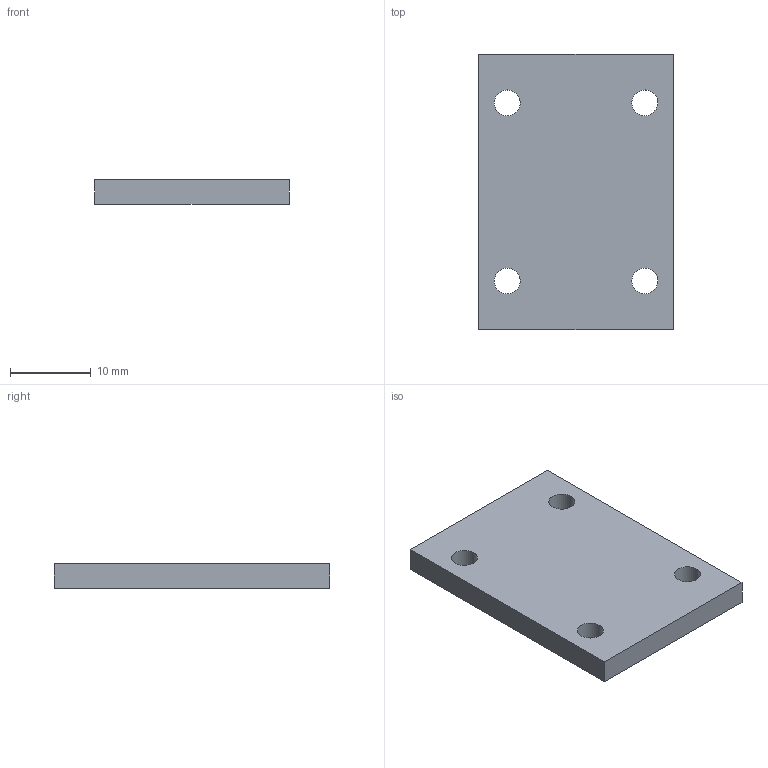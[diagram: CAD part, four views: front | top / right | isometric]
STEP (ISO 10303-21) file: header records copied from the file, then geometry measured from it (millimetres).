
FILE_DESCRIPTION(('STEP'), '1');
FILE_NAME('left-rail-cap', '2026-11-05T01:20:27', (''), (''), 'Express 3.1.3.0', 'Express Tool', 'Unknown');
FILE_SCHEMA(('AUTOMOTIVE_DESIGN'));
Length unit declared in the file: millimetre
Products named in the file (1): left-rail-cap
Bounding box: 24 x 34 x 3 mm (x, y, z)
Volume: 2351.2 mm3; surface area: 2036.5 mm2
Topology: 1 solids, 1 shells, 10 faces, 24 edges, 16 vertices
Faces by surface type: bspline 10
Entity records: 423 total; most frequent: CARTESIAN_POINT 222, ORIENTED_EDGE 48, EDGE_CURVE 24, EDGE_LOOP 18, VERTEX_POINT 16, B_SPLINE_CURVE_WITH_KNOTS 16, DIRECTION 12, ADVANCED_FACE 10
